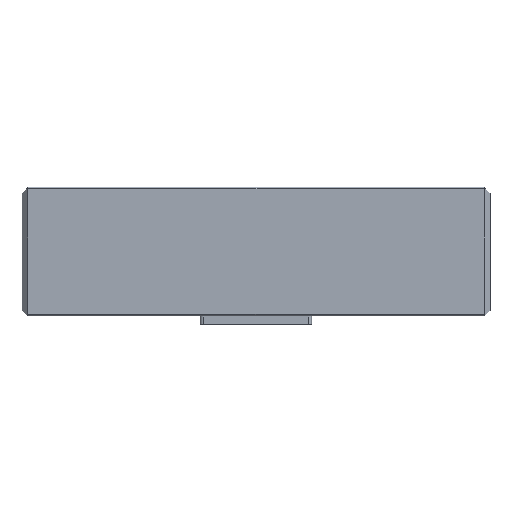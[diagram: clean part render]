
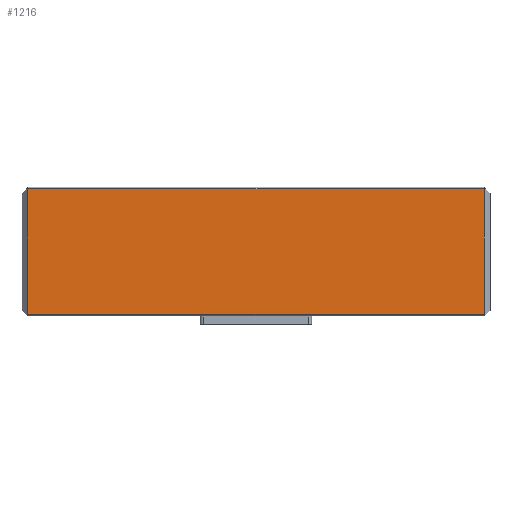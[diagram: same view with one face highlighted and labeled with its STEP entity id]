
A CAD part, top view. The second image highlights one B-rep face of the part: STEP entity #1216.
In plain terms, the highlighted planar face has unit normal (0, 0, 1).
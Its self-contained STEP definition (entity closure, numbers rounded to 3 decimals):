
#197=DIRECTION('',(-1.,0.,0.));
#198=VECTOR('',#197,156.);
#199=CARTESIAN_POINT('',(158.,0.5,0.));
#200=LINE('',#199,#198);
#257=DIRECTION('',(0.,-1.,0.));
#258=VECTOR('',#257,43.);
#259=CARTESIAN_POINT('',(158.,43.5,0.));
#260=LINE('',#259,#258);
#265=DIRECTION('',(0.,1.,0.));
#266=VECTOR('',#265,43.);
#267=CARTESIAN_POINT('',(2.,0.5,0.));
#268=LINE('',#267,#266);
#341=DIRECTION('',(1.,0.,0.));
#342=VECTOR('',#341,156.);
#343=CARTESIAN_POINT('',(2.,43.5,0.));
#344=LINE('',#343,#342);
#617=CARTESIAN_POINT('',(2.,0.5,0.));
#618=CARTESIAN_POINT('',(2.,43.5,0.));
#619=VERTEX_POINT('',#617);
#620=VERTEX_POINT('',#618);
#621=CARTESIAN_POINT('',(158.,43.5,0.));
#622=VERTEX_POINT('',#621);
#623=CARTESIAN_POINT('',(158.,0.5,0.));
#624=VERTEX_POINT('',#623);
#1203=CARTESIAN_POINT('',(80.,22.,0.));
#1204=DIRECTION('',(0.,0.,-1.));
#1205=DIRECTION('',(1.,0.,0.));
#1206=AXIS2_PLACEMENT_3D('',#1203,#1204,#1205);
#1207=PLANE('',#1206);
#1208=ORIENTED_EDGE('',*,*,#1111,.T.);
#1210=ORIENTED_EDGE('',*,*,#1209,.T.);
#1212=ORIENTED_EDGE('',*,*,#1211,.T.);
#1213=ORIENTED_EDGE('',*,*,#1192,.T.);
#1214=EDGE_LOOP('',(#1208,#1210,#1212,#1213));
#1215=FACE_OUTER_BOUND('',#1214,.F.);
#1216=ADVANCED_FACE('',(#1215),#1207,.F.);
#1111=EDGE_CURVE('',#624,#619,#200,.T.);
#1192=EDGE_CURVE('',#622,#624,#260,.T.);
#1209=EDGE_CURVE('',#619,#620,#268,.T.);
#1211=EDGE_CURVE('',#620,#622,#344,.T.);
